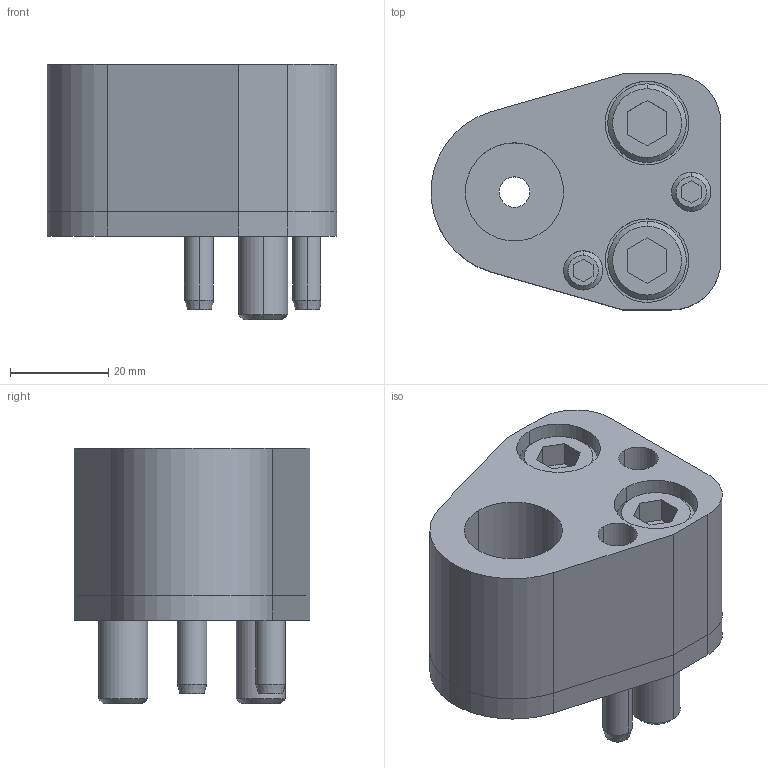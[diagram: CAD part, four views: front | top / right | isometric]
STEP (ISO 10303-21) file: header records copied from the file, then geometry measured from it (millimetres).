
FILE_DESCRIPTION(/* description */ (''),/* implementation_level */ '2;1');
FILE_NAME(/* name */ '3d_cp-ap20_02853_r00.stp',/* time_stamp */ '2011-01-10T14:16:30+09:00',/* author */ ('MISUMI'),/* organization */ (''),/* preprocessor_version */ 'ST-DEVELOPER v11',/* originating_system */ 'UGS - NX 5.0',/* authorisation */ '');
FILE_SCHEMA (('CONFIG_CONTROL_DESIGN'));
Length unit declared in the file: millimetre
Products named in the file (1): 3d_cp-ap20_02853_r00
Bounding box: 58.94 x 48 x 52 mm (x, y, z)
Volume: 69066.7 mm3; surface area: 26698.9 mm2
Topology: 8 solids, 8 shells, 152 faces, 340 edges, 218 vertices
Faces by surface type: plane 66, cylinder 60, cone 26
Entity records: 4397 total; most frequent: DIRECTION 788, CARTESIAN_POINT 762, ORIENTED_EDGE 680, EDGE_CURVE 340, AXIS2_PLACEMENT_3D 299, VERTEX_POINT 218, LINE 190, VECTOR 190
